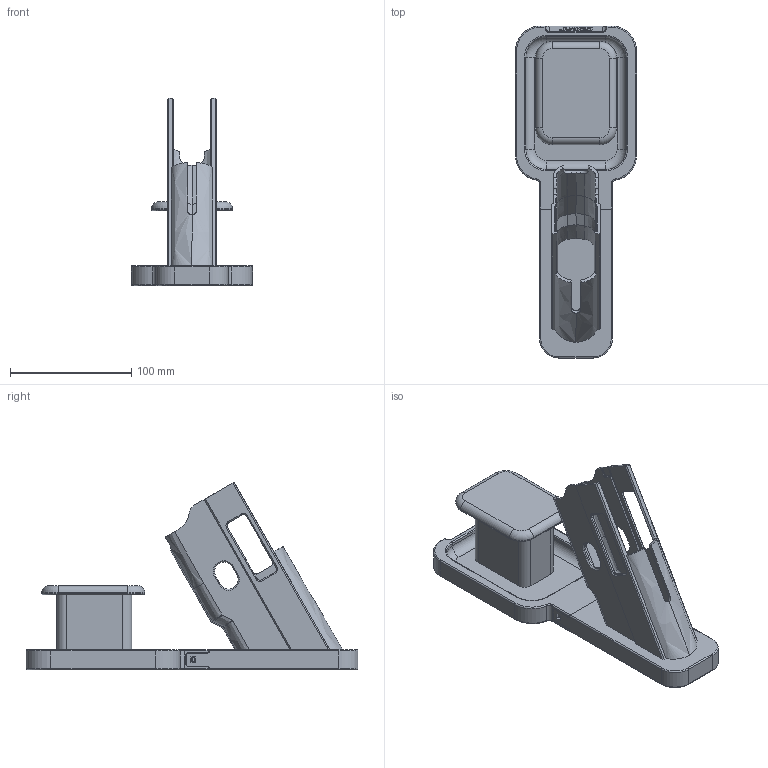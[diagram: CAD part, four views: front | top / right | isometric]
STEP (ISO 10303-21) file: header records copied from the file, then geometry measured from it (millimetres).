
FILE_DESCRIPTION((''),'2;1');
FILE_NAME('GUNHOLSTER_2025_CAD_ASM','2025-07-25T15:27:46',('Administrator'),(''),'CREO PARAMETRIC BY PTC INC, 2020154','CREO PARAMETRIC BY PTC INC, 2020154','');
FILE_SCHEMA(('AUTOMOTIVE_DESIGN { 1 0 10303 214 1 1 1 1 }'));
Length unit declared in the file: millimetre
Products named in the file (3): 00-ZSJ-4; 00-ZSJ-5; GUNHOLSTER_2025_CAD_ASM
Assembly tree (2 placements, depth 2):
  GUNHOLSTER_2025_CAD_ASM
    00-ZSJ-4
    00-ZSJ-5
Bounding box: 100 x 274.2 x 154.82 mm (x, y, z)
Volume: 371859.2 mm3; surface area: 136517.4 mm2
Topology: 2 solids, 2 shells, 628 faces, 1621 edges, 1019 vertices
Faces by surface type: plane 260, cylinder 138, bspline 81, extrusion 77, torus 46, cone 22, sphere 4
Entity records: 26002 total; most frequent: CARTESIAN_POINT 8472, ORIENTED_EDGE 3242, DIRECTION 2650, EDGE_CURVE 1621, VERTEX_POINT 1019, VECTOR 984, LINE 907, PRESENTATION_STYLE_ASSIGNMENT 892
